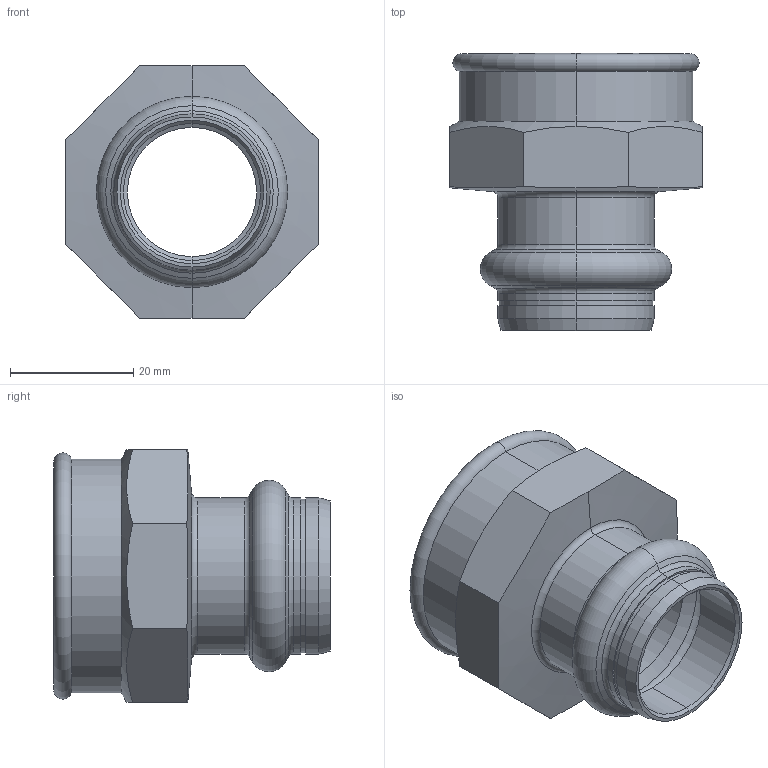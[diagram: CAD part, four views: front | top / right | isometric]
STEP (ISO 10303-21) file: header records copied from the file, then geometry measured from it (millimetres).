
FILE_DESCRIPTION (( 'STEP AP203' ), '1' );
FILE_NAME ('SP4270G Ø22 1.STEP', '2017-04-26T08:29:17', ( '' ), ( '' ), 'SwSTEP 2.0', 'SolidWorks 2016', '' );
FILE_SCHEMA (( 'CONFIG_CONTROL_DESIGN' ));
Length unit declared in the file: millimetre
Products named in the file (1): SP4270G ﾘ22 1
Bounding box: 41 x 45 x 41 mm (x, y, z)
Volume: 16051.9 mm3; surface area: 10696.9 mm2
Topology: 1 solids, 1 shells, 63 faces, 136 edges, 78 vertices
Faces by surface type: cone 20, cylinder 18, plane 13, torus 12
Entity records: 1865 total; most frequent: CARTESIAN_POINT 406, DIRECTION 314, ORIENTED_EDGE 272, EDGE_CURVE 136, AXIS2_PLACEMENT_3D 134, VERTEX_POINT 78, CIRCLE 70, EDGE_LOOP 68
